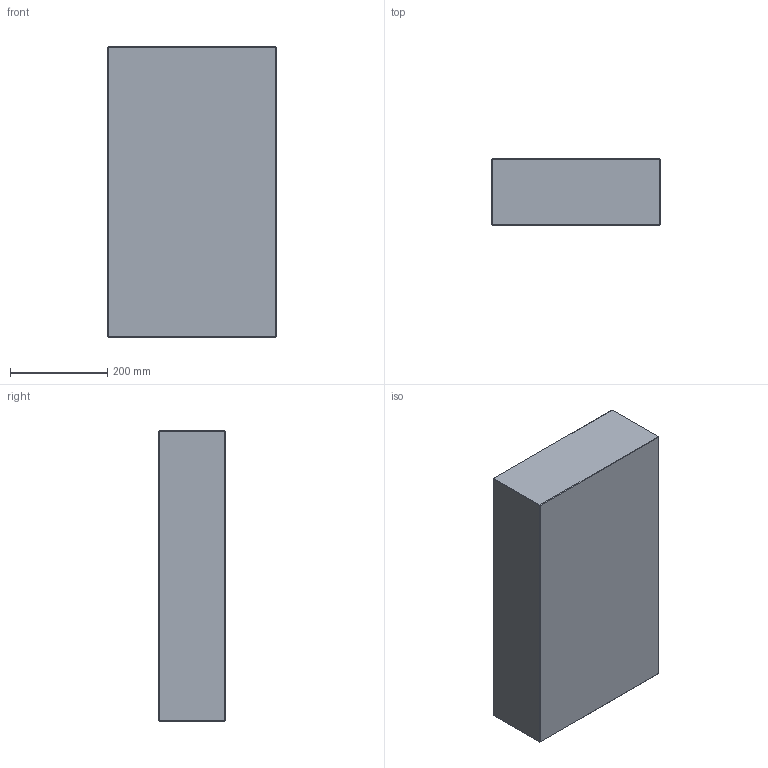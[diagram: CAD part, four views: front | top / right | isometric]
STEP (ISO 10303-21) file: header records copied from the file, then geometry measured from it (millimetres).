
FILE_DESCRIPTION (( 'STEP AP214' ), '1' );
FILE_NAME ('PC-P-346x596x136.STEP', '2020-04-01T10:29:56', ( 'August' ), ( '' ), 'SwSTEP 2.0', 'SolidWorks 2018', '' );
FILE_SCHEMA (( 'AUTOMOTIVE_DESIGN' ));
Length unit declared in the file: millimetre
Products named in the file (1): PC-P-346x596x136
Bounding box: 346 x 136 x 596 mm (x, y, z)
Volume: 28043225.3 mm3; surface area: 666127.1 mm2
Topology: 1 solids, 1 shells, 26 faces, 48 edges, 24 vertices
Faces by surface type: plane 26
Entity records: 634 total; most frequent: DIRECTION 102, CARTESIAN_POINT 99, ORIENTED_EDGE 96, EDGE_CURVE 48, VECTOR 48, LINE 48, AXIS2_PLACEMENT_3D 27, PLANE 26
